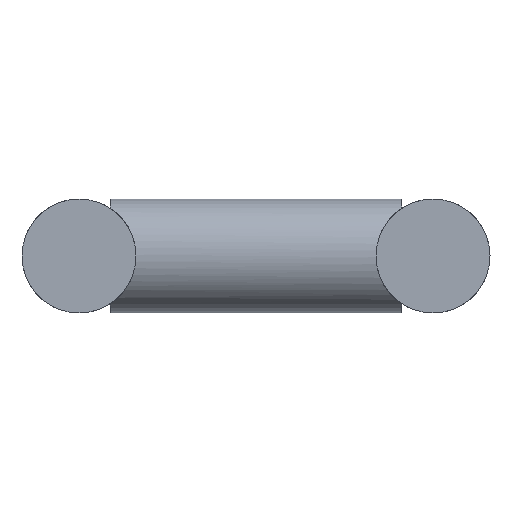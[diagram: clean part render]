
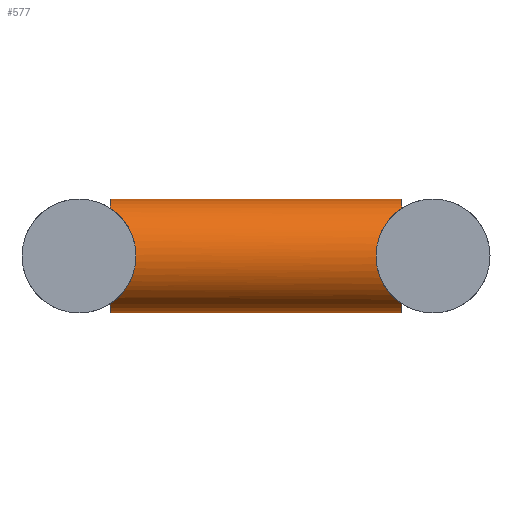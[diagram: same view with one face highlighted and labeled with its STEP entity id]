
A CAD part, left-side view. The second image highlights one B-rep face of the part: STEP entity #577.
In plain terms, the highlighted cylindrical face has radius 24.15 mm (diameter 48.3 mm), a full revolution.
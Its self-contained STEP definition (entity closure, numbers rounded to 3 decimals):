
#34=FACE_BOUND('',#136,.T.);
#69=ELLIPSE('',#621,34.153,24.15);
#70=ELLIPSE('',#622,34.153,24.15);
#71=ELLIPSE('',#623,34.153,24.15);
#72=ELLIPSE('',#624,34.153,24.15);
#81=CYLINDRICAL_SURFACE('',#620,24.15);
#98=FACE_OUTER_BOUND('',#135,.T.);
#135=EDGE_LOOP('',(#387,#388,#389,#390));
#136=EDGE_LOOP('',(#391,#392,#393,#394));
#203=CIRCLE('',#613,24.15);
#204=CIRCLE('',#615,24.15);
#205=CIRCLE('',#617,24.15);
#206=CIRCLE('',#619,24.15);
#255=VERTEX_POINT('',#859);
#256=VERTEX_POINT('',#860);
#257=VERTEX_POINT('',#864);
#258=VERTEX_POINT('',#865);
#259=VERTEX_POINT('',#869);
#260=VERTEX_POINT('',#870);
#261=VERTEX_POINT('',#874);
#262=VERTEX_POINT('',#875);
#312=EDGE_CURVE('',#255,#256,#203,.T.);
#314=EDGE_CURVE('',#257,#258,#204,.T.);
#316=EDGE_CURVE('',#259,#260,#205,.T.);
#318=EDGE_CURVE('',#261,#262,#206,.T.);
#319=EDGE_CURVE('',#258,#255,#69,.T.);
#320=EDGE_CURVE('',#256,#257,#70,.T.);
#321=EDGE_CURVE('',#262,#259,#71,.T.);
#322=EDGE_CURVE('',#260,#261,#72,.T.);
#387=ORIENTED_EDGE('',*,*,#319,.F.);
#388=ORIENTED_EDGE('',*,*,#314,.F.);
#389=ORIENTED_EDGE('',*,*,#320,.F.);
#390=ORIENTED_EDGE('',*,*,#312,.F.);
#391=ORIENTED_EDGE('',*,*,#321,.F.);
#392=ORIENTED_EDGE('',*,*,#318,.F.);
#393=ORIENTED_EDGE('',*,*,#322,.F.);
#394=ORIENTED_EDGE('',*,*,#316,.F.);
#577=ADVANCED_FACE('',(#98,#34),#81,.T.);
#613=AXIS2_PLACEMENT_3D('',#862,#694,#695);
#615=AXIS2_PLACEMENT_3D('',#867,#699,#700);
#617=AXIS2_PLACEMENT_3D('',#872,#704,#705);
#619=AXIS2_PLACEMENT_3D('',#877,#709,#710);
#620=AXIS2_PLACEMENT_3D('',#878,#711,#712);
#621=AXIS2_PLACEMENT_3D('',#879,#713,#714);
#622=AXIS2_PLACEMENT_3D('',#880,#715,#716);
#623=AXIS2_PLACEMENT_3D('',#881,#717,#718);
#624=AXIS2_PLACEMENT_3D('',#882,#719,#720);
#694=DIRECTION('center_axis',(0.,1.,0.));
#695=DIRECTION('ref_axis',(1.,0.,0.));
#699=DIRECTION('center_axis',(0.,1.,0.));
#700=DIRECTION('ref_axis',(1.,0.,0.));
#704=DIRECTION('center_axis',(0.,-1.,0.));
#705=DIRECTION('ref_axis',(1.,0.,0.));
#709=DIRECTION('center_axis',(0.,-1.,0.));
#710=DIRECTION('ref_axis',(1.,0.,0.));
#711=DIRECTION('center_axis',(0.,-1.,0.));
#712=DIRECTION('ref_axis',(1.,0.,0.));
#713=DIRECTION('center_axis',(-0.707,0.707,0.));
#714=DIRECTION('ref_axis',(0.707,0.707,0.));
#715=DIRECTION('center_axis',(0.707,0.707,0.));
#716=DIRECTION('ref_axis',(0.707,-0.707,0.));
#717=DIRECTION('center_axis',(0.707,-0.707,0.));
#718=DIRECTION('ref_axis',(0.707,0.707,0.));
#719=DIRECTION('center_axis',(-0.707,-0.707,0.));
#720=DIRECTION('ref_axis',(0.707,-0.707,0.));
#859=CARTESIAN_POINT('',(63.,61.85,20.256));
#860=CARTESIAN_POINT('',(89.3,61.85,20.256));
#862=CARTESIAN_POINT('Origin',(76.15,61.85,0.));
#864=CARTESIAN_POINT('',(89.3,61.85,-20.256));
#865=CARTESIAN_POINT('',(63.,61.85,-20.256));
#867=CARTESIAN_POINT('Origin',(76.15,61.85,0.));
#869=CARTESIAN_POINT('',(89.3,-61.85,20.256));
#870=CARTESIAN_POINT('',(63.,-61.85,20.256));
#872=CARTESIAN_POINT('Origin',(76.15,-61.85,0.));
#874=CARTESIAN_POINT('',(63.,-61.85,-20.256));
#875=CARTESIAN_POINT('',(89.3,-61.85,-20.256));
#877=CARTESIAN_POINT('Origin',(76.15,-61.85,0.));
#878=CARTESIAN_POINT('Origin',(76.15,61.85,0.));
#879=CARTESIAN_POINT('Origin',(76.15,75.,0.));
#880=CARTESIAN_POINT('Origin',(76.15,75.,0.));
#881=CARTESIAN_POINT('Origin',(76.15,-75.,0.));
#882=CARTESIAN_POINT('Origin',(76.15,-75.,0.));
